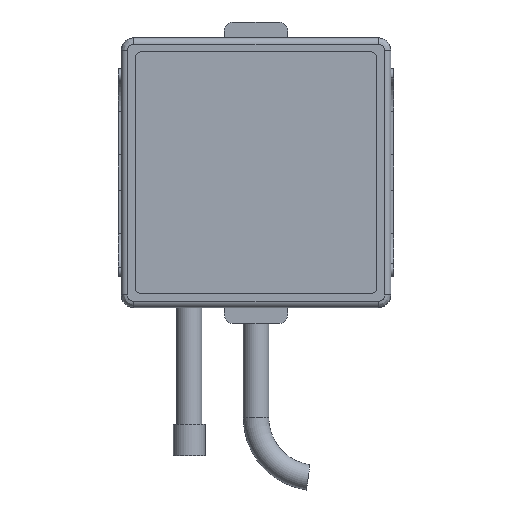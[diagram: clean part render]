
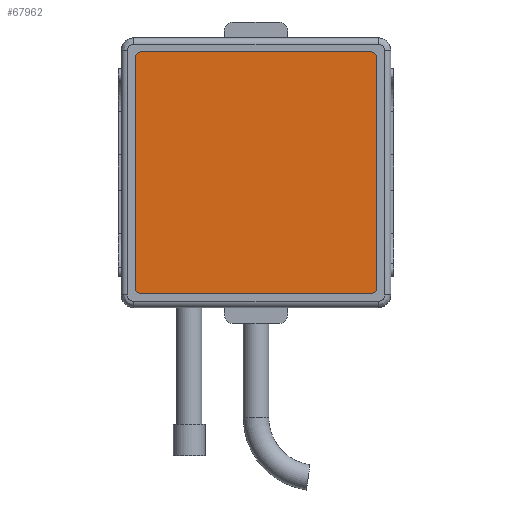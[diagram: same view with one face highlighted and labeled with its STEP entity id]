
A CAD part, top view. The second image highlights one B-rep face of the part: STEP entity #67962.
In plain terms, the highlighted planar face has unit normal (0, 0, 1).
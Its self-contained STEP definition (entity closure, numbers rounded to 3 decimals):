
#65676=CARTESIAN_POINT('',(18.,-18.,6.7));
#65677=DIRECTION('',(0.,0.,1.));
#65678=DIRECTION('',(0.,-1.,0.));
#65679=AXIS2_PLACEMENT_3D('',#65676,#65677,#65678);
#65681=DIRECTION('',(1.,0.,0.));
#65682=VECTOR('',#65681,36.);
#65683=CARTESIAN_POINT('',(-18.,-19.,6.7));
#65684=LINE('',#65683,#65682);
#65685=CARTESIAN_POINT('',(-18.,-18.,6.7));
#65686=DIRECTION('',(0.,0.,1.));
#65687=DIRECTION('',(-1.,0.,0.));
#65688=AXIS2_PLACEMENT_3D('',#65685,#65686,#65687);
#65690=DIRECTION('',(0.,-1.,0.));
#65691=VECTOR('',#65690,36.);
#65692=CARTESIAN_POINT('',(-19.,18.,6.7));
#65693=LINE('',#65692,#65691);
#65694=CARTESIAN_POINT('',(-18.,18.,6.7));
#65695=DIRECTION('',(0.,0.,1.));
#65696=DIRECTION('',(0.,1.,0.));
#65697=AXIS2_PLACEMENT_3D('',#65694,#65695,#65696);
#65699=DIRECTION('',(-1.,0.,0.));
#65700=VECTOR('',#65699,36.);
#65701=CARTESIAN_POINT('',(18.,19.,6.7));
#65702=LINE('',#65701,#65700);
#65703=CARTESIAN_POINT('',(18.,18.,6.7));
#65704=DIRECTION('',(0.,0.,1.));
#65705=DIRECTION('',(1.,0.,0.));
#65706=AXIS2_PLACEMENT_3D('',#65703,#65704,#65705);
#65708=DIRECTION('',(0.,1.,0.));
#65709=VECTOR('',#65708,36.);
#65710=CARTESIAN_POINT('',(19.,-18.,6.7));
#65711=LINE('',#65710,#65709);
#66083=CARTESIAN_POINT('',(18.,-19.,6.7));
#66084=CARTESIAN_POINT('',(19.,-18.,6.7));
#66085=VERTEX_POINT('',#66083);
#66086=VERTEX_POINT('',#66084);
#66091=CARTESIAN_POINT('',(-19.,-18.,6.7));
#66092=CARTESIAN_POINT('',(-18.,-19.,6.7));
#66093=VERTEX_POINT('',#66091);
#66094=VERTEX_POINT('',#66092);
#66099=CARTESIAN_POINT('',(-18.,19.,6.7));
#66100=CARTESIAN_POINT('',(-19.,18.,6.7));
#66101=VERTEX_POINT('',#66099);
#66102=VERTEX_POINT('',#66100);
#66107=CARTESIAN_POINT('',(19.,18.,6.7));
#66108=CARTESIAN_POINT('',(18.,19.,6.7));
#66109=VERTEX_POINT('',#66107);
#66110=VERTEX_POINT('',#66108);
#67941=CARTESIAN_POINT('',(0.,0.,6.7));
#67942=DIRECTION('',(0.,0.,1.));
#67943=DIRECTION('',(-1.,0.,0.));
#67944=AXIS2_PLACEMENT_3D('',#67941,#67942,#67943);
#67945=PLANE('',#67944);
#67947=ORIENTED_EDGE('',*,*,#67946,.F.);
#67949=ORIENTED_EDGE('',*,*,#67948,.F.);
#67950=ORIENTED_EDGE('',*,*,#67932,.F.);
#67951=ORIENTED_EDGE('',*,*,#67922,.F.);
#67953=ORIENTED_EDGE('',*,*,#67952,.F.);
#67955=ORIENTED_EDGE('',*,*,#67954,.F.);
#67957=ORIENTED_EDGE('',*,*,#67956,.F.);
#67959=ORIENTED_EDGE('',*,*,#67958,.F.);
#67960=EDGE_LOOP('',(#67947,#67949,#67950,#67951,#67953,#67955,#67957,#67959));
#67961=FACE_OUTER_BOUND('',#67960,.F.);
#67962=ADVANCED_FACE('',(#67961),#67945,.T.);
#65680=CIRCLE('',#65679,1.);
#65689=CIRCLE('',#65688,1.);
#65698=CIRCLE('',#65697,1.);
#65707=CIRCLE('',#65706,1.);
#67922=EDGE_CURVE('',#66102,#66093,#65693,.T.);
#67932=EDGE_CURVE('',#66093,#66094,#65689,.T.);
#67946=EDGE_CURVE('',#66085,#66086,#65680,.T.);
#67948=EDGE_CURVE('',#66094,#66085,#65684,.T.);
#67952=EDGE_CURVE('',#66101,#66102,#65698,.T.);
#67954=EDGE_CURVE('',#66110,#66101,#65702,.T.);
#67956=EDGE_CURVE('',#66109,#66110,#65707,.T.);
#67958=EDGE_CURVE('',#66086,#66109,#65711,.T.);
